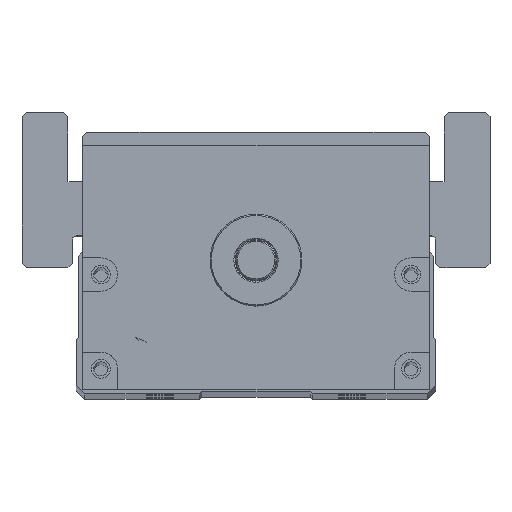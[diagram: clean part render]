
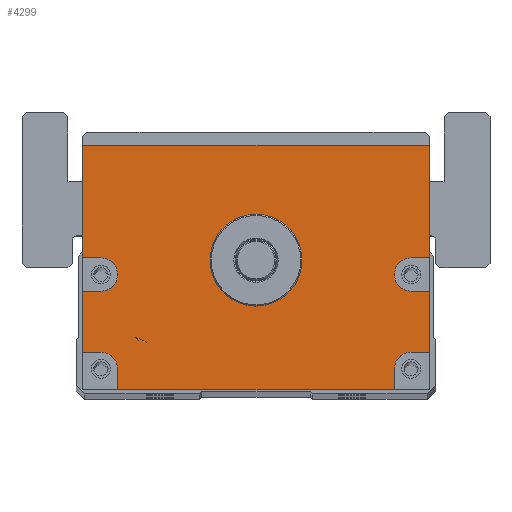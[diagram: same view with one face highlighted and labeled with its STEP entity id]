
A CAD part, top view. The second image highlights one B-rep face of the part: STEP entity #4299.
In plain terms, the highlighted planar face has unit normal (0, 0, 1).
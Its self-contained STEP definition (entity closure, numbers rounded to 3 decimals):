
#3648=FACE_BOUND('',#5933,.T.);
#3649=FACE_BOUND('',#5934,.T.);
#4299=ADVANCED_FACE('',(#3648,#3649),#4789,.T.);
#4789=PLANE('',#14793);
#5933=EDGE_LOOP('',(#9714,#9715,#9716,#9717,#9718,#9719,#9720,#9721,#9722,
#9723,#9724,#9725,#9726,#9727,#9728,#9729,#9730,#9731));
#5934=EDGE_LOOP('',(#9732));
#6804=LINE('',#21357,#7568);
#6806=LINE('',#21365,#7570);
#6807=LINE('',#21368,#7571);
#6808=LINE('',#21370,#7572);
#6809=LINE('',#21374,#7573);
#6810=LINE('',#21376,#7574);
#6811=LINE('',#21377,#7575);
#6812=LINE('',#21379,#7576);
#6813=LINE('',#21383,#7577);
#6814=LINE('',#21385,#7578);
#6815=LINE('',#21387,#7579);
#6816=LINE('',#21391,#7580);
#6817=LINE('',#21393,#7581);
#6818=LINE('',#21395,#7582);
#7568=VECTOR('',#17015,1.);
#7570=VECTOR('',#17023,1.);
#7571=VECTOR('',#17024,1.);
#7572=VECTOR('',#17025,1.);
#7573=VECTOR('',#17028,1.);
#7574=VECTOR('',#17029,1.);
#7575=VECTOR('',#17030,1.);
#7576=VECTOR('',#17031,1.);
#7577=VECTOR('',#17034,1.);
#7578=VECTOR('',#17035,1.);
#7579=VECTOR('',#17036,1.);
#7580=VECTOR('',#17039,1.);
#7581=VECTOR('',#17040,1.);
#7582=VECTOR('',#17041,1.);
#9714=ORIENTED_EDGE('',*,*,#13036,.F.);
#9715=ORIENTED_EDGE('',*,*,#13037,.T.);
#9716=ORIENTED_EDGE('',*,*,#13038,.F.);
#9717=ORIENTED_EDGE('',*,*,#13039,.F.);
#9718=ORIENTED_EDGE('',*,*,#13040,.F.);
#9719=ORIENTED_EDGE('',*,*,#13041,.T.);
#9720=ORIENTED_EDGE('',*,*,#13032,.T.);
#9721=ORIENTED_EDGE('',*,*,#13042,.T.);
#9722=ORIENTED_EDGE('',*,*,#13043,.F.);
#9723=ORIENTED_EDGE('',*,*,#13044,.F.);
#9724=ORIENTED_EDGE('',*,*,#13045,.F.);
#9725=ORIENTED_EDGE('',*,*,#13046,.T.);
#9726=ORIENTED_EDGE('',*,*,#13047,.F.);
#9727=ORIENTED_EDGE('',*,*,#13048,.F.);
#9728=ORIENTED_EDGE('',*,*,#13049,.F.);
#9729=ORIENTED_EDGE('',*,*,#13050,.T.);
#9730=ORIENTED_EDGE('',*,*,#13051,.F.);
#9731=ORIENTED_EDGE('',*,*,#13052,.F.);
#9732=ORIENTED_EDGE('',*,*,#13018,.T.);
#11639=VERTEX_POINT('',#21328);
#11652=VERTEX_POINT('',#21356);
#11653=VERTEX_POINT('',#21358);
#11656=VERTEX_POINT('',#21366);
#11657=VERTEX_POINT('',#21367);
#11658=VERTEX_POINT('',#21369);
#11659=VERTEX_POINT('',#21371);
#11660=VERTEX_POINT('',#21373);
#11661=VERTEX_POINT('',#21375);
#11662=VERTEX_POINT('',#21378);
#11663=VERTEX_POINT('',#21380);
#11664=VERTEX_POINT('',#21382);
#11665=VERTEX_POINT('',#21384);
#11666=VERTEX_POINT('',#21386);
#11667=VERTEX_POINT('',#21388);
#11668=VERTEX_POINT('',#21390);
#11669=VERTEX_POINT('',#21392);
#11670=VERTEX_POINT('',#21394);
#11671=VERTEX_POINT('',#21396);
#13018=EDGE_CURVE('',#11639,#11639,#13928,.T.);
#13032=EDGE_CURVE('',#11653,#11652,#6804,.T.);
#13036=EDGE_CURVE('',#11656,#11657,#6806,.T.);
#13037=EDGE_CURVE('',#11656,#11658,#6807,.T.);
#13038=EDGE_CURVE('',#11659,#11658,#6808,.T.);
#13039=EDGE_CURVE('',#11660,#11659,#13939,.T.);
#13040=EDGE_CURVE('',#11661,#11660,#6809,.T.);
#13041=EDGE_CURVE('',#11661,#11653,#6810,.T.);
#13042=EDGE_CURVE('',#11652,#11662,#6811,.T.);
#13043=EDGE_CURVE('',#11663,#11662,#6812,.T.);
#13044=EDGE_CURVE('',#11664,#11663,#13940,.T.);
#13045=EDGE_CURVE('',#11665,#11664,#6813,.T.);
#13046=EDGE_CURVE('',#11665,#11666,#6814,.T.);
#13047=EDGE_CURVE('',#11667,#11666,#6815,.T.);
#13048=EDGE_CURVE('',#11668,#11667,#13941,.T.);
#13049=EDGE_CURVE('',#11669,#11668,#6816,.T.);
#13050=EDGE_CURVE('',#11669,#11670,#6817,.T.);
#13051=EDGE_CURVE('',#11671,#11670,#6818,.T.);
#13052=EDGE_CURVE('',#11657,#11671,#13942,.T.);
#13928=CIRCLE('',#14775,11.);
#13939=CIRCLE('',#14789,4.);
#13940=CIRCLE('',#14790,4.);
#13941=CIRCLE('',#14791,4.);
#13942=CIRCLE('',#14792,4.);
#14775=AXIS2_PLACEMENT_3D('',#21327,#16988,#16989);
#14789=AXIS2_PLACEMENT_3D('',#21372,#17026,#17027);
#14790=AXIS2_PLACEMENT_3D('',#21381,#17032,#17033);
#14791=AXIS2_PLACEMENT_3D('',#21389,#17037,#17038);
#14792=AXIS2_PLACEMENT_3D('',#21397,#17042,#17043);
#14793=AXIS2_PLACEMENT_3D('',#21398,#17044,#17045);
#16988=DIRECTION('',(0.,0.,-1.));
#16989=DIRECTION('',(1.,0.,0.));
#17015=DIRECTION('',(-1.,0.,0.));
#17023=DIRECTION('',(-1.,0.,0.));
#17024=DIRECTION('',(0.,1.,0.));
#17025=DIRECTION('',(1.,0.,0.));
#17026=DIRECTION('',(0.,0.,1.));
#17027=DIRECTION('',(1.,0.,0.));
#17028=DIRECTION('',(-1.,0.,0.));
#17029=DIRECTION('',(0.,1.,0.));
#17030=DIRECTION('',(0.,-1.,0.));
#17031=DIRECTION('',(-1.,0.,0.));
#17032=DIRECTION('',(0.,0.,1.));
#17033=DIRECTION('',(1.,0.,0.));
#17034=DIRECTION('',(1.,0.,0.));
#17035=DIRECTION('',(0.,-1.,0.));
#17036=DIRECTION('',(-1.,0.,0.));
#17037=DIRECTION('',(0.,0.,1.));
#17038=DIRECTION('',(1.,0.,0.));
#17039=DIRECTION('',(0.,1.,0.));
#17040=DIRECTION('',(1.,0.,0.));
#17041=DIRECTION('',(0.,-1.,0.));
#17042=DIRECTION('',(0.,0.,1.));
#17043=DIRECTION('',(1.,0.,0.));
#17044=DIRECTION('',(0.,0.,1.));
#17045=DIRECTION('',(1.,0.,0.));
#21327=CARTESIAN_POINT('',(150.,0.,582.5));
#21328=CARTESIAN_POINT('',(161.,0.,582.5));
#21356=CARTESIAN_POINT('',(108.5,27.5,582.5));
#21357=CARTESIAN_POINT('',(191.5,27.5,582.5));
#21358=CARTESIAN_POINT('',(191.5,27.5,582.5));
#21365=CARTESIAN_POINT('',(191.5,-22.,582.5));
#21366=CARTESIAN_POINT('',(191.5,-22.,582.5));
#21367=CARTESIAN_POINT('',(187.115,-22.,582.5));
#21368=CARTESIAN_POINT('',(191.5,-31.,582.5));
#21369=CARTESIAN_POINT('',(191.5,-7.431,582.5));
#21370=CARTESIAN_POINT('',(191.5,-7.431,582.5));
#21371=CARTESIAN_POINT('',(187.115,-7.431,582.5));
#21372=CARTESIAN_POINT('',(187.115,-3.431,582.5));
#21373=CARTESIAN_POINT('',(187.115,0.569,582.5));
#21374=CARTESIAN_POINT('',(191.5,0.569,582.5));
#21375=CARTESIAN_POINT('',(191.5,0.569,582.5));
#21376=CARTESIAN_POINT('',(191.5,-31.,582.5));
#21377=CARTESIAN_POINT('',(108.5,27.5,582.5));
#21378=CARTESIAN_POINT('',(108.5,0.569,582.5));
#21379=CARTESIAN_POINT('',(191.5,0.569,582.5));
#21380=CARTESIAN_POINT('',(112.885,0.569,582.5));
#21381=CARTESIAN_POINT('',(112.885,-3.431,582.5));
#21382=CARTESIAN_POINT('',(112.885,-7.431,582.5));
#21383=CARTESIAN_POINT('',(191.5,-7.431,582.5));
#21384=CARTESIAN_POINT('',(108.5,-7.431,582.5));
#21385=CARTESIAN_POINT('',(108.5,27.5,582.5));
#21386=CARTESIAN_POINT('',(108.5,-22.,582.5));
#21387=CARTESIAN_POINT('',(191.5,-22.,582.5));
#21388=CARTESIAN_POINT('',(112.885,-22.,582.5));
#21389=CARTESIAN_POINT('',(112.885,-26.,582.5));
#21390=CARTESIAN_POINT('',(116.885,-26.,582.5));
#21391=CARTESIAN_POINT('',(116.885,-31.,582.5));
#21392=CARTESIAN_POINT('',(116.885,-31.,582.5));
#21393=CARTESIAN_POINT('',(108.5,-31.,582.5));
#21394=CARTESIAN_POINT('',(183.115,-31.,582.5));
#21395=CARTESIAN_POINT('',(183.115,-31.,582.5));
#21396=CARTESIAN_POINT('',(183.115,-26.,582.5));
#21397=CARTESIAN_POINT('',(187.115,-26.,582.5));
#21398=CARTESIAN_POINT('',(191.5,-31.,582.5));
